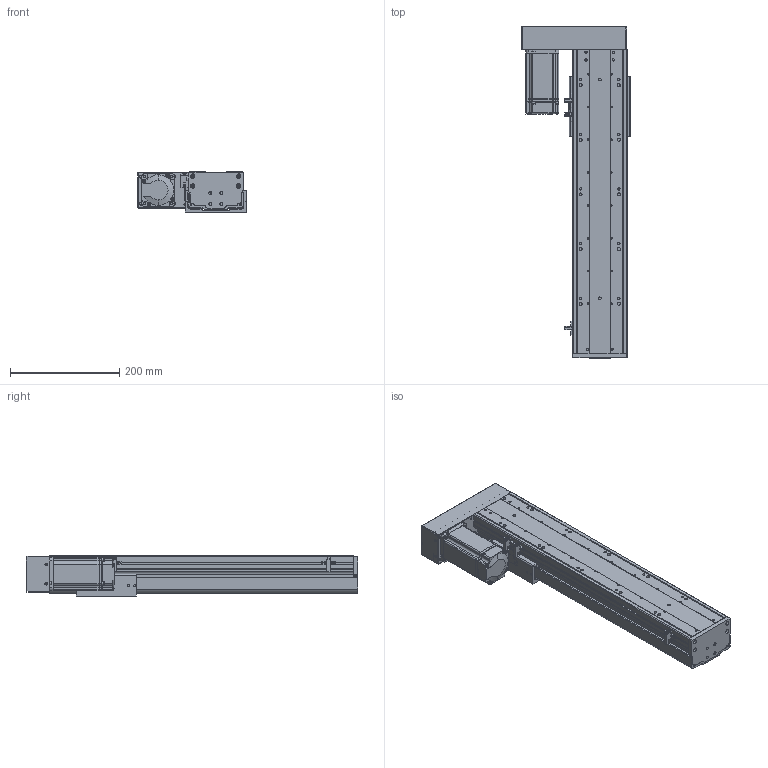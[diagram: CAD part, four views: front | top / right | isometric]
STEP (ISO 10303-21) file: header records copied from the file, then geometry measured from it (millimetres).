
FILE_DESCRIPTION (( 'STEP AP203' ), '1' );
FILE_NAME ('RY100FBS-L1610-300-LK(15双轨）.SLDASM_350.step', '2021-02-23T01:49:12', ( '盈信电脑' ), ( '东莞市道滘镇水果街19号' ), 'SwSTEP 2.0', 'SolidWorks 2012', '' );
FILE_SCHEMA (( 'CONFIG_CONTROL_DESIGN' ));
Length unit declared in the file: millimetre
Products named in the file (14): RY100FBS-酘衵殏萇儂欶; RY100FBS-L1610-300-LK(15双轨）.SLDASM_350; RY100FBS-酘衵殏萇儂啣; 侂狟400W侜督萇儂; RY100FBS-后盖板(15双轨）; 15; 覜茼ん672; RY100FBS-嫖萇覜茼え; RY100FBS-铝滑块（16丝杆）; 滅袉蝶18-15; 滅袉蝶18-24; RY100FBS-300蛌殏奻裔啣-LK_350; RY100FBS-300蛌殏菁釱-LK_350; RY100FBS-转折支撑座（15双轨）
Assembly tree (15 placements, depth 3):
  RY100FBS-L1610-300-LK(15双轨）.SLDASM_350
    RY100FBS-300蛌殏菁釱-LK_350
    RY100FBS-300蛌殏奻裔啣-LK_350
    RY100FBS-转折支撑座（15双轨）
    滅袉蝶18-24
    滅袉蝶18-15
    RY100FBS-铝滑块（16丝杆）
    覜茼ん672  x3
    RY100FBS-嫖萇覜茼え
    侂狟400W侜督萇儂
      15
    RY100FBS-后盖板(15双轨）
    RY100FBS-酘衵殏萇儂啣
    RY100FBS-酘衵殏萇儂欶
Bounding box: 198.75 x 607 x 74 mm (x, y, z)
Volume: 1945620.9 mm3; surface area: 691437.1 mm2
Topology: 14 solids, 14 shells, 1559 faces, 4376 edges, 2834 vertices
Faces by surface type: cylinder 723, plane 684, cone 126, bspline 26
Entity records: 48595 total; most frequent: CARTESIAN_POINT 10316, DIRECTION 7783, ORIENTED_EDGE 7628, EDGE_CURVE 3814, AXIS2_PLACEMENT_3D 2793, VERTEX_POINT 2514, VECTOR 2197, LINE 2197
